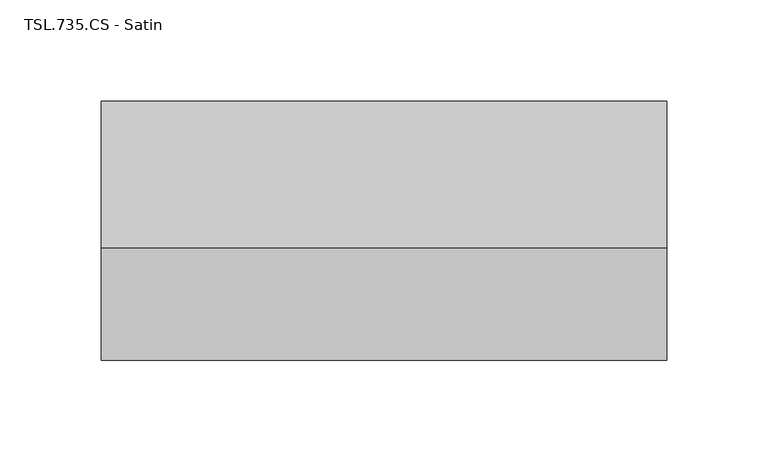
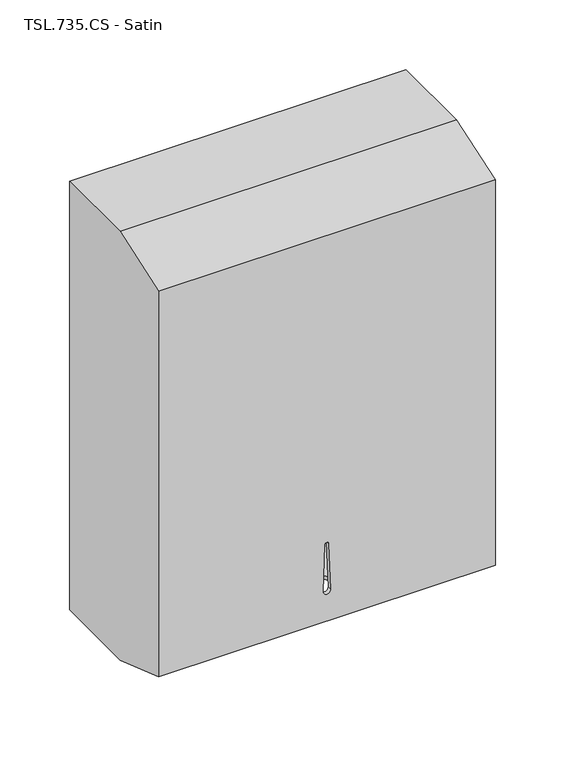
"""IFC4 building model written with IfcOpenShell, lengths in millimetres: proxy geometry, TSL_UK - TSL735 - Wall Mounted Paper Towel Dispenser : TSL.735.CS - Satin."""

from ifc_helpers import new_model, si_unit, frame, origin, place, context, project, spatial, polyline, circle_curve, ellipse_curve, source, transform, mapped, element, save
from ifc_brep_helpers import plane_surface, cylinder_surface, revolved_surface, advanced_brep


def tsl_735_cs_satin_22d366d7(model_context):
    return source(origin(), model_context, "Body", "AdvancedBrep", [
        advanced_brep(
        [(139.7, 0.0, 1000.0), (139.7, 0.0, 1375.92), (139.7, -72.5059308, 1375.92), (139.7, -128.016, 1356.8063504), (139.7, -128.016, 1019.1136496), (139.7, -72.5059308, 1000.0), (-139.7, 0.0, 1000.0), (-139.7, -72.5059308, 1000.0), (-139.7, -128.016, 1019.1136496), (-139.7, -128.016, 1356.8063504), (-139.7, -72.5059308, 1375.92), (-139.7, 0.0, 1375.92), (2.9595849, -128.016, 1045.6459977), (-2.9595849, -128.016, 1045.6459977), (-1.4879237, -128.016, 1086.2808431), (1.4879237, -128.016, 1086.2808431), (52.2802617, -72.5059308, 1000.0), (47.4650098, -68.0772846, 1000.0), (-47.4650098, -68.0772846, 1000.0), (-52.2802617, -72.5059308, 1000.0), (-67.7029123, -77.4465991, 1001.7012085), (-116.3937211, -77.4465991, 1001.7012085), (-116.7620332, -97.4398141, 1008.5854245), (0.0, -101.7432208, 1010.0672063), (116.7620332, -97.4398141, 1008.5854245), (116.3937211, -77.4465991, 1001.7012085), (67.7029123, -77.4465991, 1001.7012085), (2.9595849, -124.836, 1045.6459977), (-2.9595849, -124.836, 1045.6459977), (1.4879237, -124.836, 1086.2808431), (-1.4879237, -124.836, 1086.2808431), (-116.3937211, -77.4465991, 1005.0644423), (-116.7620332, -97.4398141, 1011.9486583), (0.0, -101.7432208, 1013.43044), (116.7620332, -97.4398141, 1011.9486583), (116.3937211, -77.4465991, 1005.0644423), (67.7029123, -77.4465991, 1005.0644423), (51.5608858, -71.9737813, 1003.18), (47.4650098, -68.0772846, 1003.18), (-47.4650098, -68.0772846, 1003.18), (-51.5608858, -71.9737813, 1003.18), (-67.7029123, -77.4465991, 1005.0644423), (136.525, -124.836, 1354.5380784), (136.525, -71.9737813, 1372.74), (136.525, -3.18, 1372.74), (136.525, -3.18, 1003.18), (136.525, -71.9737813, 1003.18), (136.525, -124.836, 1021.3819216), (-136.525, -124.836, 1354.5380784), (-136.525, -124.836, 1021.3819216), (-136.525, -71.9737813, 1003.18), (-136.525, -3.18, 1003.18), (-136.525, -3.18, 1372.74), (-136.525, -71.9737813, 1372.74)],
        [
            (0, 1),
            (1, 2),
            (2, 3),
            (3, 4),
            (4, 5),
            (5, 0),
            (6, 7),
            (7, 8),
            (8, 9),
            (9, 10),
            (10, 11),
            (11, 6),
            (0, 6),
            (11, 1),
            (3, 9),
            (8, 4),
            (12, 13, circle_curve(frame((0.0, -128.016, 1045.5388112), z_axis=(0.0, 1.0, 0.0), x_axis=(1.0, 0.0, 0.0)), 2.9615252)),
            (13, 14),
            (14, 15, circle_curve(frame((0.0, -128.016, 1086.2269554), z_axis=(0.0, 1.0, 0.0), x_axis=(1.0, 0.0, 0.0)), 1.4888992)),
            (15, 12),
            (5, 16),
            (16, 17, circle_curve(frame((67.7029123, -50.9048092, 1000.0), z_axis=(0.0, 0.0, -1.0), x_axis=(1.0, 0.0, 0.0)), 26.5417898)),
            (17, 18, circle_curve(frame((0.0, -108.3527881, 1000.0), z_axis=(0.0, 0.0, 1.0), x_axis=(1.0, 0.0, 0.0)), 62.2498461)),
            (18, 19, circle_curve(frame((-67.7029123, -50.9048092, 1000.0), z_axis=(0.0, 0.0, -1.0), x_axis=(1.0, 0.0, 0.0)), 26.5417898)),
            (19, 7),
            (10, 2),
            (19, 20, ellipse_curve(frame((-67.7029123, -50.9048092, 992.5621373), z_axis=(0.0, -0.32556815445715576, -0.9455185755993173), x_axis=(0.0, 0.9455185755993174, -0.3255681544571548)), 28.0711459, 26.5417898)),
            (20, 21),
            (21, 22, ellipse_curve(frame((-116.3937211, -87.4465991, 1005.1444846), z_axis=(0.0, 0.32556815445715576, 0.9455185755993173), x_axis=(0.0, -0.9455185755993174, 0.3255681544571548)), 10.5762068, 10.0)),
            (22, 23),
            (23, 24),
            (24, 25, ellipse_curve(frame((116.3937211, -87.4465991, 1005.1444846), z_axis=(0.0, 0.32556815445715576, 0.9455185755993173), x_axis=(0.0, -0.9455185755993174, 0.3255681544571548)), 10.5762068, 10.0)),
            (25, 26),
            (26, 16, ellipse_curve(frame((67.7029123, -50.9048092, 992.5621373), z_axis=(0.0, -0.32556815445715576, -0.9455185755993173), x_axis=(0.0, 0.9455185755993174, -0.3255681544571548)), 28.0711459, 26.5417898)),
            (12, 27),
            (27, 28, circle_curve(frame((0.0, -124.836, 1045.5388112), z_axis=(0.0, 1.0, 0.0), x_axis=(1.0, 0.0, 0.0)), 2.9615252)),
            (28, 13),
            (15, 29),
            (29, 27),
            (14, 30),
            (30, 29, circle_curve(frame((0.0, -124.836, 1086.2269554), z_axis=(0.0, 1.0, 0.0), x_axis=(1.0, 0.0, 0.0)), 1.4888992)),
            (28, 30),
            (21, 31),
            (31, 32, ellipse_curve(frame((-116.3937211, -87.4465991, 1008.5077184), z_axis=(0.0, 0.3255681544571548, 0.9455185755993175), x_axis=(0.0, -0.9455185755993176, 0.3255681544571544)), 10.5762068, 10.0)),
            (32, 22),
            (32, 33),
            (33, 23),
            (33, 34),
            (34, 24),
            (34, 35, ellipse_curve(frame((116.3937211, -87.4465991, 1008.5077184), z_axis=(0.0, 0.3255681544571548, 0.9455185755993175), x_axis=(0.0, -0.9455185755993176, 0.3255681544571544)), 10.5762068, 10.0)),
            (35, 25),
            (35, 36),
            (36, 26),
            (36, 37, ellipse_curve(frame((67.7029123, -50.9048092, 995.9253711), z_axis=(0.0, -0.3255681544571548, -0.9455185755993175), x_axis=(0.0, 0.9455185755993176, -0.3255681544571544)), 28.0711459, 26.5417898)),
            (37, 38, circle_curve(frame((67.7029123, -50.9048092, 1003.18), z_axis=(0.0, 0.0, -1.0), x_axis=(1.0, 0.0, 0.0)), 26.5417898)),
            (38, 17),
            (38, 39, circle_curve(frame((0.0, -108.3527881, 1003.18), z_axis=(0.0, 0.0, 1.0), x_axis=(1.0, 0.0, 0.0)), 62.2498461)),
            (39, 18),
            (39, 40, circle_curve(frame((-67.7029123, -50.9048092, 1003.18), z_axis=(0.0, 0.0, -1.0), x_axis=(1.0, 0.0, 0.0)), 26.5417898)),
            (40, 41, ellipse_curve(frame((-67.7029123, -50.9048092, 995.9253711), z_axis=(0.0, -0.3255681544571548, -0.9455185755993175), x_axis=(0.0, 0.9455185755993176, -0.3255681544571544)), 28.0711459, 26.5417898)),
            (41, 20),
            (41, 31),
            (42, 43),
            (43, 44),
            (44, 45),
            (45, 46),
            (46, 47),
            (47, 42),
            (48, 49),
            (49, 50),
            (50, 51),
            (51, 52),
            (52, 53),
            (53, 48),
            (47, 49),
            (48, 42),
            (46, 37),
            (40, 50),
            (45, 51),
            (44, 52),
            (43, 53),
        ],
        [
            plane_surface(frame((139.7, 0.0, 1375.92), z_axis=(1.0, 0.0, 0.0), x_axis=(0.0, 0.0, 1.0))),
            plane_surface(frame((-139.7, 0.0, 1375.92), z_axis=(-1.0, 0.0, 0.0), x_axis=(0.0, 0.0, -1.0))),
            plane_surface(frame((139.7, 0.0, 1000.0), z_axis=(0.0, 1.0, 0.0), x_axis=(-1.0, 0.0, 0.0))),
            plane_surface(frame((139.7, -128.016, 1356.8063504), z_axis=(0.0, -1.0, 0.0), x_axis=(-1.0, 0.0, 0.0))),
            plane_surface(frame((139.7, -72.5059308, 1000.0), z_axis=(0.0, 0.0, -1.0), x_axis=(-1.0, 0.0, 0.0))),
            plane_surface(frame((139.7, 0.0, 1375.92), z_axis=(0.0, 0.0, 1.0), x_axis=(-1.0, 0.0, 0.0))),
            plane_surface(frame((139.7, -72.5059308, 1375.92), z_axis=(0.0, -0.3255681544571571, 0.9455185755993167), x_axis=(-1.0, 0.0, 0.0))),
            plane_surface(frame((139.7, -128.016, 1019.1136496), z_axis=(0.0, -0.32556815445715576, -0.9455185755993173), x_axis=(-1.0, 0.0, 0.0))),
            revolved_surface(polyline([(2.9615252, -128.016, 1045.5388112), (2.9615252, -124.836, 1045.5388112)]), (0.0, -123.4791566, 1045.5388112), (0.0, -1.0, 0.0)),
            plane_surface(frame((2.9595849, -135.6187855, 1045.6459977), z_axis=(-0.9993448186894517, 0.0, -0.036193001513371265), x_axis=(0.0, 1.0, 0.0))),
            revolved_surface(polyline([(1.4888992, -128.016, 1086.2269554), (1.4888992, -124.836, 1086.2269554)]), (0.0, -123.4791566, 1086.2269554), (0.0, -1.0, 0.0)),
            plane_surface(frame((-1.4879237, -135.6187855, 1086.2808431), z_axis=(0.9993448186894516, 0.0, -0.036193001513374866), x_axis=(0.0, 1.0, 0.0))),
            revolved_surface(polyline([(-106.3937211, -87.4465991, 1011.9509945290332), (-106.3937211, -87.4465991, 1001.7012084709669)]), (-116.3937211, -87.4465991, 989.01307), (0.0, 0.0, 1.0)),
            plane_surface(frame((-116.7620332, -97.4398141, 1045.5388112), z_axis=(0.036831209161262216, 0.9993215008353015, 0.0), x_axis=(0.0, 0.0, -1.0))),
            plane_surface(frame((0.0, -101.7432208, 1045.5388112), z_axis=(-0.036831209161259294, 0.9993215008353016, 0.0), x_axis=(0.0, 0.0, -1.0))),
            revolved_surface(polyline([(126.3937211, -87.4465991, 1011.9509945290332), (126.3937211, -87.4465991, 1001.7012084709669)]), (116.3937211, -87.4465991, 989.01307), (0.0, 0.0, 1.0)),
            plane_surface(frame((116.3937211, -77.4465991, 1045.5388112), z_axis=(0.0, -1.0, 0.0), x_axis=(0.0, 0.0, -1.0))),
            cylinder_surface(frame((67.7029123, -50.9048092, 989.01307), z_axis=(0.0, 0.0, -1.0), x_axis=(1.0, 0.0, 0.0)), 26.5417898),
            revolved_surface(polyline([(62.2498461, -108.3527881, 1003.18), (62.2498461, -108.3527881, 1000.0)]), (0.0, -108.3527881, 989.01307), (0.0, 0.0, 1.0)),
            cylinder_surface(frame((-67.7029123, -50.9048092, 989.01307), z_axis=(0.0, 0.0, -1.0), x_axis=(1.0, 0.0, 0.0)), 26.5417898),
            plane_surface(frame((-67.7029123, -77.4465991, 1045.5388112), z_axis=(0.0, -1.0, 0.0), x_axis=(0.0, 0.0, -1.0))),
            plane_surface(frame((136.525, -124.836, 1021.3819216), z_axis=(-1.0, 0.0, 0.0), x_axis=(0.0, 0.0, -1.0))),
            plane_surface(frame((-136.525, -124.836, 1021.3819216), z_axis=(1.0, 0.0, 0.0), x_axis=(0.0, 0.0, 1.0))),
            plane_surface(frame((136.525, -124.836, 1354.5380784), z_axis=(0.0, 1.0, 0.0), x_axis=(-1.0, 0.0, 0.0))),
            plane_surface(frame((136.525, -124.836, 1021.3819216), z_axis=(0.0, 0.3255681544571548, 0.9455185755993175), x_axis=(-1.0, 0.0, 0.0))),
            plane_surface(frame((136.525, -71.9737813, 1003.18), z_axis=(0.0, 0.0, 1.0), x_axis=(-1.0, 0.0, 0.0))),
            plane_surface(frame((136.525, -3.18, 1003.18), z_axis=(0.0, -1.0, 0.0), x_axis=(-1.0, 0.0, 0.0))),
            plane_surface(frame((136.525, -3.18, 1372.74), z_axis=(0.0, 0.0, -1.0), x_axis=(-1.0, 0.0, 0.0))),
            plane_surface(frame((136.525, -71.9737813, 1372.74), z_axis=(0.0, 0.3255681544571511, -0.9455185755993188), x_axis=(-1.0, 0.0, 0.0))),
        ],
        [
            (0, [[1, 2, 3, 4, 5, 6]]),
            (1, [[7, 8, 9, 10, 11, 12]]),
            (2, [[-1, 13, -12, 14]]),
            (3, [[-4, 15, -9, 16], [17, 18, 19, 20]]),
            (4, [[-6, 21, 22, 23, 24, 25, -7, -13]]),
            (5, [[-2, -14, -11, 26]]),
            (6, [[-3, -26, -10, -15]]),
            (7, [[-5, -16, -8, -25, 27, 28, 29, 30, 31, 32, 33, 34, -21]]),
            (8, [[-17, 35, 36, 37]]),
            (9, [[-20, 38, 39, -35]]),
            (10, [[-19, 40, 41, -38]]),
            (11, [[-18, -37, 42, -40]]),
            (12, [[-29, 43, 44, 45]]),
            (13, [[-30, -45, 46, 47]]),
            (14, [[-31, -47, 48, 49]]),
            (15, [[-32, -49, 50, 51]]),
            (16, [[-33, -51, 52, 53]]),
            (17, [[-22, -34, -53, 54, 55, 56]]),
            (18, [[-23, -56, 57, 58]]),
            (19, [[-24, -58, 59, 60, 61, -27]]),
            (20, [[-28, -61, 62, -43]]),
            (21, [[63, 64, 65, 66, 67, 68]]),
            (22, [[69, 70, 71, 72, 73, 74]]),
            (23, [[-68, 75, -69, 76], [-36, -39, -41, -42]]),
            (24, [[-67, 77, -54, -52, -50, -48, -46, -44, -62, -60, 78, -70, -75]]),
            (25, [[-66, 79, -71, -78, -59, -57, -55, -77]]),
            (26, [[-65, 80, -72, -79]]),
            (27, [[-64, 81, -73, -80]]),
            (28, [[-63, -76, -74, -81]]),
        ],
    ),
    ])


if __name__ == "__main__":
    model = new_model("IFC4")
    model_context = context("Model", 3, world=origin())
    ifc_project = project(units=[si_unit("LENGTHUNIT", "METRE", prefix="MILLI")], contexts=[model_context])
    site = spatial("IfcSite", under=ifc_project)
    building = spatial("IfcBuilding", under=site)
    placement = place(None, origin())
    tsl_735_cs_satin_shape = tsl_735_cs_satin_22d366d7(model_context)
    element("IfcBuildingElementProxy", 1, Name="TSL_UK - TSL735 - Wall Mounted Paper Towel Dispenser : TSL.735.CS - Satin", ObjectType="TSL_UK - TSL735 - Wall Mounted Paper Towel Dispenser : TSL.735.CS - Satin", at=placement, inside=building, context=model_context, shape_type="MappedRepresentation", body=[
        mapped(tsl_735_cs_satin_shape, transform((0.0, 0.0, 0.0), x_axis=(1.0, 0.0, 0.0), y_axis=(0.0, 1.0, 0.0), z_axis=(0.0, 0.0, 1.0))),
    ])
    save(model, "model.ifc")
